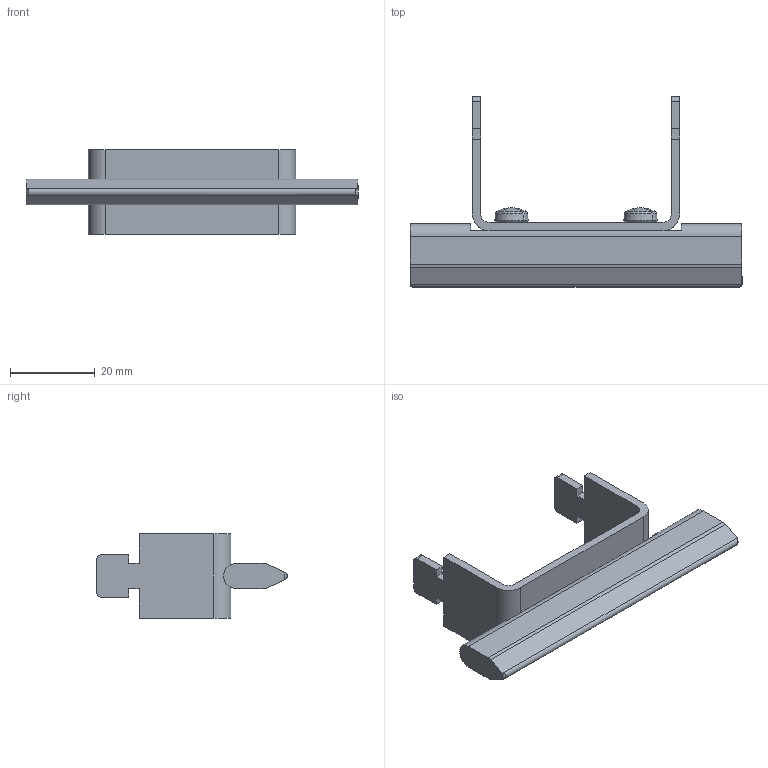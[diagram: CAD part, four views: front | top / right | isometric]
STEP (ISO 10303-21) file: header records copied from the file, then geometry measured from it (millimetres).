
FILE_DESCRIPTION (( 'STEP AP214' ), '1' );
FILE_NAME ('ZP000.step', '2011-08-23T10:38:35', ( 'Radek Veselý' ), ( 'Siemens and Partners' ), 'SwSTEP 2.0', 'SolidWorks 2006303', '' );
FILE_SCHEMA (( 'AUTOMOTIVE_DESIGN' ));
Length unit declared in the file: millimetre
Products named in the file (1): ZP000
Bounding box: 78.5 x 45 x 20 mm (x, y, z)
Volume: 9482.4 mm3; surface area: 7930.9 mm2
Topology: 4 solids, 4 shells, 143 faces, 376 edges, 238 vertices
Faces by surface type: plane 81, cylinder 36, cone 12, torus 8, sphere 4, bspline 2
Entity records: 6472 total; most frequent: CARTESIAN_POINT 1345, ORIENTED_EDGE 736, DIRECTION 732, EDGE_CURVE 368, AXIS2_PLACEMENT_3D 258, VERTEX_POINT 238, VECTOR 216, LINE 216
